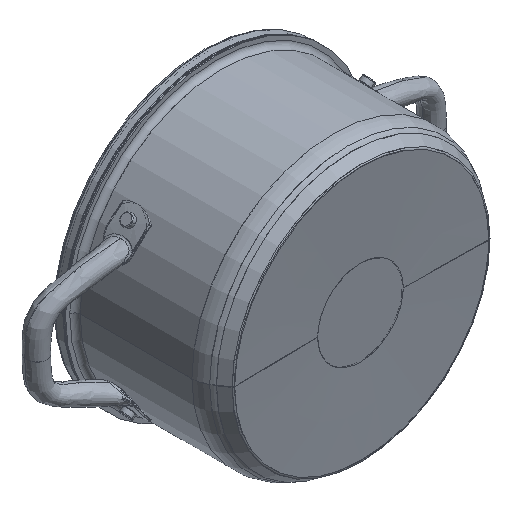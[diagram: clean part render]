
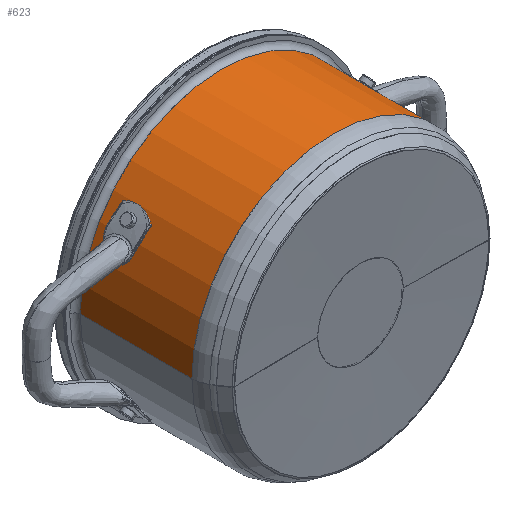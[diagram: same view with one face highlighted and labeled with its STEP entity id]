
A CAD part, isometric view. The second image highlights one B-rep face of the part: STEP entity #623.
In plain terms, the highlighted cylindrical face has radius 100.8 mm (diameter 201.6 mm), a partial arc.
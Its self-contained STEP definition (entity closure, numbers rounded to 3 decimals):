
#325=CARTESIAN_POINT('',(0.,100.,0.));
#326=DIRECTION('',(0.,-1.,0.));
#327=DIRECTION('',(1.,0.,0.));
#328=AXIS2_PLACEMENT_3D('',#325,#326,#327);
#335=DIRECTION('',(0.,1.,0.));
#336=VECTOR('',#335,79.627);
#337=CARTESIAN_POINT('',(-100.8,20.373,0.));
#338=LINE('',#337,#336);
#339=DIRECTION('',(0.,1.,0.));
#340=VECTOR('',#339,79.627);
#341=CARTESIAN_POINT('',(100.8,20.373,0.));
#342=LINE('',#341,#340);
#363=CARTESIAN_POINT('',(0.,20.373,0.));
#364=DIRECTION('',(0.,1.,0.));
#365=DIRECTION('',(-1.,0.,0.));
#366=AXIS2_PLACEMENT_3D('',#363,#364,#365);
#487=CARTESIAN_POINT('',(100.8,100.,0.));
#488=VERTEX_POINT('',#487);
#489=CARTESIAN_POINT('',(-100.8,100.,0.));
#490=VERTEX_POINT('',#489);
#491=CARTESIAN_POINT('',(100.8,20.373,0.));
#492=VERTEX_POINT('',#491);
#493=CARTESIAN_POINT('',(-100.8,20.373,0.));
#494=VERTEX_POINT('',#493);
#609=CARTESIAN_POINT('',(0.,109.5,0.));
#610=DIRECTION('',(0.,-1.,0.));
#611=DIRECTION('',(-1.,0.,0.));
#612=AXIS2_PLACEMENT_3D('',#609,#610,#611);
#613=CYLINDRICAL_SURFACE('',#612,100.8);
#615=ORIENTED_EDGE('',*,*,#614,.F.);
#617=ORIENTED_EDGE('',*,*,#616,.F.);
#619=ORIENTED_EDGE('',*,*,#618,.T.);
#620=ORIENTED_EDGE('',*,*,#602,.F.);
#621=EDGE_LOOP('',(#615,#617,#619,#620));
#622=FACE_OUTER_BOUND('',#621,.F.);
#623=ADVANCED_FACE('',(#622),#613,.T.);
#329=CIRCLE('',#328,100.8);
#367=CIRCLE('',#366,100.8);
#602=EDGE_CURVE('',#488,#490,#329,.T.);
#614=EDGE_CURVE('',#492,#488,#342,.T.);
#616=EDGE_CURVE('',#494,#492,#367,.T.);
#618=EDGE_CURVE('',#494,#490,#338,.T.);
